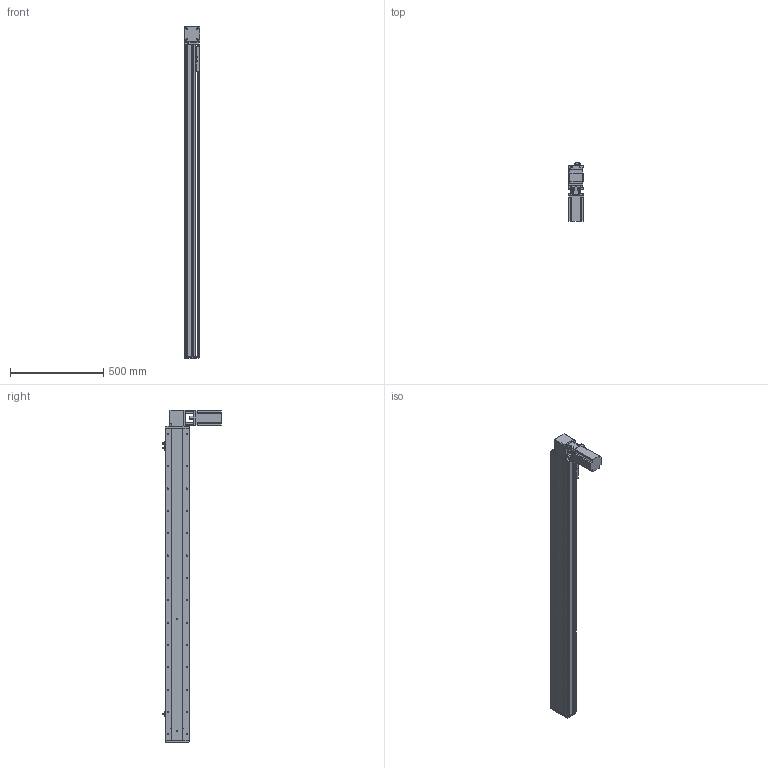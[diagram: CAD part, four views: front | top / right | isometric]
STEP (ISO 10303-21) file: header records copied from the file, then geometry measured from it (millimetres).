
FILE_DESCRIPTION (( 'STEP AP214' ), '1' );
FILE_NAME ('KSD130B-S1450-MRT-CM.STEP', '2019-11-16T03:47:11', ( '微软用户' ), ( '微软中国' ), 'SwSTEP 2.0', 'SolidWorks 2014', '' );
FILE_SCHEMA (( 'AUTOMOTIVE_DESIGN' ));
Length unit declared in the file: millimetre
Products named in the file (12): 130宽底板半封闭同步带-1450行程; KSD130B-S1450-MRT-CM; 台达ECMA－C20807AS伺服电机; 130宽马达安装板1-带电机座750W（1）; 覜茼え100遵圉猾敕; U倰嫖萇EEㄜSX672; 130宽安装板同步带带电机座750W; 130宽盖板半封闭同步带-1450行程; 130宽马达安装板同步带左-改; 130宽马达安装板同步带半封闭; 130宽同步带安装座半封闭; 130宽端盖同步带半封闭
Assembly tree (13 placements, depth 2):
  KSD130B-S1450-MRT-CM
    130宽底板半封闭同步带-1450行程
    130宽端盖同步带半封闭
    130宽同步带安装座半封闭
    130宽马达安装板同步带半封闭
    130宽马达安装板同步带左-改
    130宽盖板半封闭同步带-1450行程
    130宽安装板同步带带电机座750W
    U倰嫖萇EEㄜSX672  x3
    覜茼え100遵圉猾敕
    130宽马达安装板1-带电机座750W（1）
    台达ECMA－C20807AS伺服电机
Bounding box: 81 x 316 x 1783 mm (x, y, z)
Volume: 6177966.5 mm3; surface area: 1685392.2 mm2
Topology: 14 solids, 14 shells, 1635 faces, 4712 edges, 2991 vertices
Faces by surface type: cylinder 801, plane 621, cone 213
Entity records: 54859 total; most frequent: CARTESIAN_POINT 10421, DIRECTION 8302, ORIENTED_EDGE 7996, EDGE_CURVE 3998, AXIS2_PLACEMENT_3D 3064, VERTEX_POINT 2615, VECTOR 2174, LINE 2174
